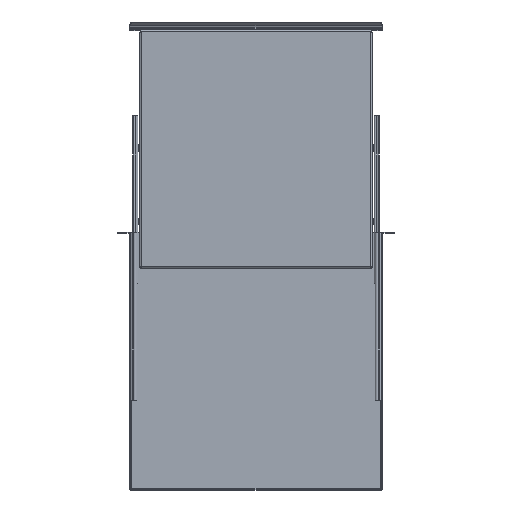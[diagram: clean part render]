
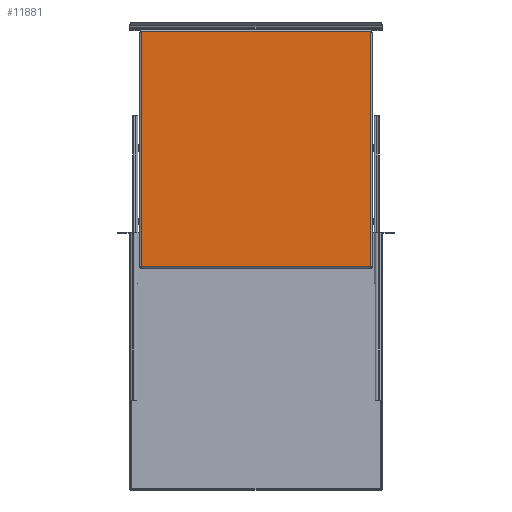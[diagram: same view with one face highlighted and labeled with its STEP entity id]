
A CAD part, front view. The second image highlights one B-rep face of the part: STEP entity #11881.
In plain terms, the highlighted planar face has unit normal (0, -1, 0).
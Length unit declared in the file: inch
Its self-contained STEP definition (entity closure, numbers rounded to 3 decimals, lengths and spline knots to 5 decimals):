
#471 = CARTESIAN_POINT ( 'NONE',  ( -7.928, 0., 0. ) ) ;
#475 = CARTESIAN_POINT ( 'NONE',  ( -7.868, 0., -16.22893 ) ) ;
#476 = DIRECTION ( 'NONE',  ( 0., 0., -1. ) ) ;
#477 = CARTESIAN_POINT ( 'NONE',  ( 0., 0., -16.169 ) ) ;
#478 = DIRECTION ( 'NONE',  ( 0., 0., 1. ) ) ;
#479 = CARTESIAN_POINT ( 'NONE',  ( 0., 0., -0.1 ) ) ;
#480 = DIRECTION ( 'NONE',  ( 1., 0., 0. ) ) ;
#481 = CARTESIAN_POINT ( 'NONE',  ( 7.928, 0., -0.06 ) ) ;
#482 = DIRECTION ( 'NONE',  ( -1., 0., 0. ) ) ;
#483 = CARTESIAN_POINT ( 'NONE',  ( 7.928, 0., 0. ) ) ;
#484 = DIRECTION ( 'NONE',  ( 0., 0., -1. ) ) ;
#485 = CARTESIAN_POINT ( 'NONE',  ( 7.868, 0., -16.22893 ) ) ;
#486 = DIRECTION ( 'NONE',  ( -1., 0., 0. ) ) ;
#488 = DIRECTION ( 'NONE',  ( 0., 0., 1. ) ) ;
#489 = CARTESIAN_POINT ( 'NONE',  ( 0., 0., -0.1 ) ) ;
#490 = DIRECTION ( 'NONE',  ( 1., 0., 0. ) ) ;
#580 = CARTESIAN_POINT ( 'NONE',  ( 0., 0., -16.229 ) ) ;
#588 = PLANE ( 'NONE',  #12951 ) ;
#593 = DIRECTION ( 'NONE',  ( 0., -1., 0. ) ) ;
#594 = DIRECTION ( 'NONE',  ( 0., 0., -1. ) ) ;
#1193 = CARTESIAN_POINT ( 'NONE',  ( 7.868, 0., -0.1 ) ) ;
#1351 = CARTESIAN_POINT ( 'NONE',  ( 7.928, 0., -0.1 ) ) ;
#1549 = LINE ( 'NONE', #471, #1560 ) ;
#1551 = LINE ( 'NONE', #475, #1562 ) ;
#1557 = LINE ( 'NONE', #477, #1564 ) ;
#1560 = VECTOR ( 'NONE', #476, 39.37008 ) ;
#1561 = LINE ( 'NONE', #479, #1570 ) ;
#1562 = VECTOR ( 'NONE', #478, 39.37008 ) ;
#1563 = LINE ( 'NONE', #485, #1571 ) ;
#1564 = VECTOR ( 'NONE', #480, 39.37008 ) ;
#1566 = LINE ( 'NONE', #481, #1567 ) ;
#1567 = VECTOR ( 'NONE', #482, 39.37008 ) ;
#1568 = LINE ( 'NONE', #483, #1569 ) ;
#1569 = VECTOR ( 'NONE', #484, 39.37008 ) ;
#1570 = VECTOR ( 'NONE', #486, 39.37008 ) ;
#1571 = VECTOR ( 'NONE', #488, 39.37008 ) ;
#1573 = LINE ( 'NONE', #489, #1574 ) ;
#1574 = VECTOR ( 'NONE', #490, 39.37008 ) ;
#3411 = VERTEX_POINT ( 'NONE', #3452 ) ;
#3441 = VERTEX_POINT ( 'NONE', #3484 ) ;
#3452 = CARTESIAN_POINT ( 'NONE',  ( -7.928, 0., -0.06 ) ) ;
#3484 = CARTESIAN_POINT ( 'NONE',  ( 7.868, 0., -16.169 ) ) ;
#5953 = EDGE_LOOP ( 'NONE', ( #7273, #7254, #7276, #7280, #7279, #7278, #7281, #7282 ) ) ;
#7254 = ORIENTED_EDGE ( 'NONE', *, *, #12457, .T. ) ;
#7273 = ORIENTED_EDGE ( 'NONE', *, *, #12458, .F. ) ;
#7276 = ORIENTED_EDGE ( 'NONE', *, *, #12454, .T. ) ;
#7278 = ORIENTED_EDGE ( 'NONE', *, *, #12456, .T. ) ;
#7279 = ORIENTED_EDGE ( 'NONE', *, *, #12455, .F. ) ;
#7280 = ORIENTED_EDGE ( 'NONE', *, *, #12459, .F. ) ;
#7281 = ORIENTED_EDGE ( 'NONE', *, *, #12460, .T. ) ;
#7282 = ORIENTED_EDGE ( 'NONE', *, *, #12461, .T. ) ;
#8721 = VERTEX_POINT ( 'NONE', #1193 ) ;
#8746 = VERTEX_POINT ( 'NONE', #10203 ) ;
#8836 = VERTEX_POINT ( 'NONE', #10170 ) ;
#9464 = FACE_OUTER_BOUND ( 'NONE', #5953, .T. ) ;
#10170 = CARTESIAN_POINT ( 'NONE',  ( -7.928, 0., -0.1 ) ) ;
#10203 = CARTESIAN_POINT ( 'NONE',  ( 7.928, 0., -0.06 ) ) ;
#10353 = CARTESIAN_POINT ( 'NONE',  ( -7.868, 0., -16.169 ) ) ;
#10359 = CARTESIAN_POINT ( 'NONE',  ( -7.868, 0., -0.1 ) ) ;
#10492 = VERTEX_POINT ( 'NONE', #1351 ) ;
#10535 = VERTEX_POINT ( 'NONE', #10359 ) ;
#10560 = VERTEX_POINT ( 'NONE', #10353 ) ;
#11881 = ADVANCED_FACE ( 'NONE', ( #9464 ), #588, .T. ) ;
#12454 = EDGE_CURVE ( 'NONE', #3411, #8836, #1549, .T. ) ;
#12455 = EDGE_CURVE ( 'NONE', #10560, #10535, #1551, .T. ) ;
#12456 = EDGE_CURVE ( 'NONE', #10560, #3441, #1557, .T. ) ;
#12457 = EDGE_CURVE ( 'NONE', #8746, #3411, #1566, .T. ) ;
#12458 = EDGE_CURVE ( 'NONE', #8746, #10492, #1568, .T. ) ;
#12459 = EDGE_CURVE ( 'NONE', #10535, #8836, #1561, .T. ) ;
#12460 = EDGE_CURVE ( 'NONE', #3441, #8721, #1563, .T. ) ;
#12461 = EDGE_CURVE ( 'NONE', #8721, #10492, #1573, .T. ) ;
#12951 = AXIS2_PLACEMENT_3D ( 'NONE', #580, #593, #594 ) ;
